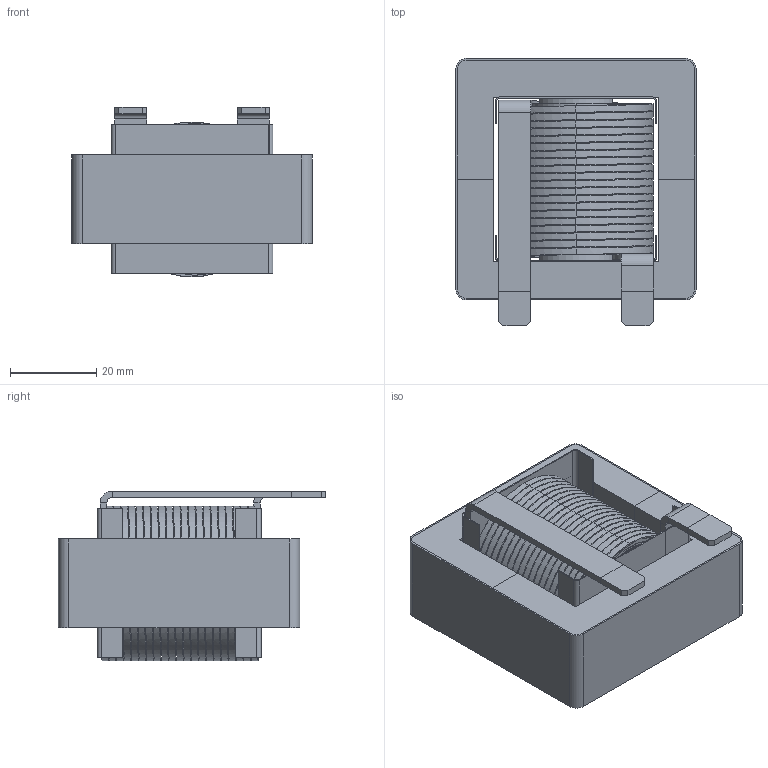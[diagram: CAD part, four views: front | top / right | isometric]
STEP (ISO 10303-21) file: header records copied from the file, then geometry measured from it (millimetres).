
FILE_DESCRIPTION (( 'STEP AP214' ), '1' );
FILE_NAME ('ES55206-800M-75AV.STEP', '2021-05-08T11:03:48', ( '' ), ( '' ), 'SwSTEP 2.0', 'SolidWorks 2015', '' );
FILE_SCHEMA (( 'AUTOMOTIVE_DESIGN' ));
Length unit declared in the file: millimetre
Products named in the file (6): ES55206-800M-75AV; SIDE MYLAR; WRAPPER; CENTER MYLAR; E CORE; HELICAL COIL
Assembly tree (7 placements, depth 2):
  ES55206-800M-75AV
    HELICAL COIL
    E CORE  x2
    SIDE MYLAR  x2
    CENTER MYLAR
    WRAPPER
Bounding box: 55.62 x 61.9 x 39.3 mm (x, y, z)
Volume: 66946.5 mm3; surface area: 67502 mm2
Topology: 9 solids, 9 shells, 372 faces, 996 edges, 656 vertices
Faces by surface type: plane 193, cylinder 120, bspline 59
Entity records: 18896 total; most frequent: CARTESIAN_POINT 9202, ORIENTED_EDGE 1824, DIRECTION 1256, EDGE_CURVE 912, VERTEX_POINT 600, VECTOR 568, LINE 568, EDGE_LOOP 362
